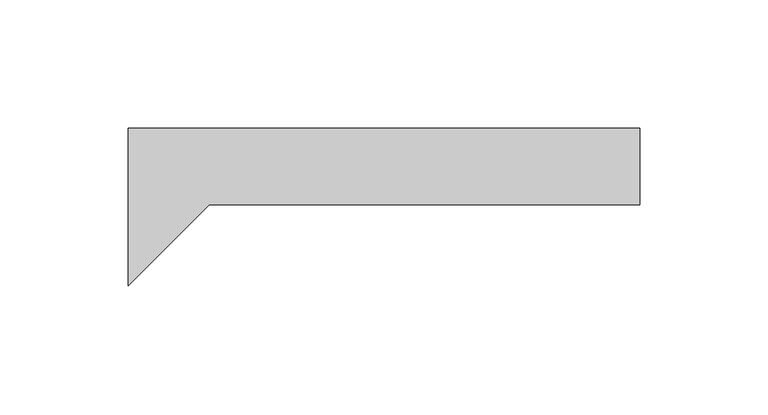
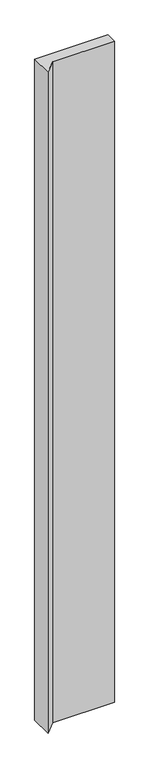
"""IFC4 building model written with IfcOpenShell, lengths in millimetres: plate geometry, ATELIERS 3S_EPURE CDB 300_VERTICAL : AZURO."""

import ifcopenshell
import ifcopenshell.guid

model = None  # the IFC model being written
_history = None  # IfcOwnerHistory: only IFC2X3 demands one
_inside = {}  # id of a spatial element -> (the spatial element, [elements in it])
_under = {}  # id of a project, library or spatial element -> (it, [spatial elements below it])
_declared = {}  # id of a project -> (the project, [libraries it declares])
_typed = {}  # id of a type object -> (the type object, [elements of that type])
_made_of = {}  # id of a material, layer set ... -> (it, [elements and type objects made of it])


def new_model(schema):
    """Start an empty IFC model of exactly this schema.

    Asked for "IFC4X3", IfcOpenShell would pick the latest addendum, in which some entities
    have other attributes; the version numbers below select the first issue.
    IFC2X3 requires an IfcOwnerHistory on every rooted entity: one is made here for all.
    """
    global model, _history
    if schema == "IFC4X3":
        model = ifcopenshell.file(schema_version=(4, 3, 0, 0))
    else:
        model = ifcopenshell.file(schema=schema)
    _inside.clear()
    _under.clear()
    _declared.clear()
    _typed.clear()
    _made_of.clear()
    _history = None
    if model.schema == "IFC2X3":
        org = make("IfcOrganization", Name="unknown")
        user = make(
            "IfcPersonAndOrganization",
            ThePerson=make("IfcPerson", FamilyName="unknown"),
            TheOrganization=org,
        )
        app = make(
            "IfcApplication",
            ApplicationDeveloper=org,
            Version="unknown",
            ApplicationFullName="unknown",
            ApplicationIdentifier="unknown",
        )
        _history = make(
            "IfcOwnerHistory",
            OwningUser=user,
            OwningApplication=app,
            ChangeAction="ADDED",
            CreationDate=0,
        )
    return model


def make(cls, **values):
    """One entity of the class cls with the attributes given. An attribute that is None is left unset."""
    return model.create_entity(
        cls, **{name: value for name, value in values.items() if value is not None}
    )


def rooted(cls, **values):
    """An entity with a GlobalId (a new one), such as an element, a storey or a relation."""
    return make(cls, GlobalId=ifcopenshell.guid.new(), OwnerHistory=_history, **values)


def si_unit(unit_type, name, prefix=None):
    """IfcSIUnit, for example si_unit("LENGTHUNIT", "METRE", prefix="MILLI")."""
    return make("IfcSIUnit", UnitType=unit_type, Prefix=prefix, Name=name)


def assignment(units):
    """IfcUnitAssignment: the units of a project."""
    return None if units is None else make("IfcUnitAssignment", Units=units)


def point(xyz):
    """IfcCartesianPoint."""
    return None if xyz is None else make("IfcCartesianPoint", Coordinates=xyz)


def direction(xyz):
    """IfcDirection."""
    return None if xyz is None else make("IfcDirection", DirectionRatios=xyz)


def frame(location, z_axis=None, x_axis=None):
    """IfcAxis2Placement3D, a coordinate frame: its origin and axes. An axis left out is left unset."""
    return make(
        "IfcAxis2Placement3D",
        Location=point(location),
        Axis=direction(z_axis),
        RefDirection=direction(x_axis),
    )


def origin():
    """The frame at (0, 0, 0) with its axes left unset."""
    return frame((0.0, 0.0, 0.0))


def origin_with_axes():
    """The frame at (0, 0, 0) with the z axis (0, 0, 1) and the x axis (1, 0, 0) written out."""
    return frame((0.0, 0.0, 0.0), z_axis=(0.0, 0.0, 1.0), x_axis=(1.0, 0.0, 0.0))


def place(relative_to, where):
    """IfcLocalPlacement: puts the frame where relative to a parent placement (None: the world)."""
    return make(
        "IfcLocalPlacement", PlacementRelTo=relative_to, RelativePlacement=where
    )


def context(
    kind, dimensions, precision=None, world=None, true_north=None, identifier=None
):
    """IfcGeometricRepresentationContext, for example the 3D "Model" context."""
    return make(
        "IfcGeometricRepresentationContext",
        ContextIdentifier=identifier,
        ContextType=kind,
        CoordinateSpaceDimension=dimensions,
        Precision=precision,
        WorldCoordinateSystem=world,
        TrueNorth=true_north,
    )


def project(units=None, contexts=None):
    """IfcProject with its units and contexts."""
    return rooted(
        "IfcProject",
        Name="project",
        RepresentationContexts=contexts,
        UnitsInContext=assignment(units),
    )


def spatial(cls, under=None, at=None, **own):
    """A site, building, storey or space (cls), placed at a placement, below another one or the project."""
    s = rooted(cls, ObjectPlacement=at, **own)
    if under is not None:
        _under.setdefault(under.id(), (under, []))[1].append(s)
    return s


def polyline(points):
    """IfcPolyline through the points."""
    return make("IfcPolyline", Points=[point(p) for p in points])


def outline(outer, holes=None, kind="AREA"):
    """IfcArbitraryClosedProfileDef: a profile drawn as a closed curve; with holes, ...WithVoids."""
    if holes is None:
        return make("IfcArbitraryClosedProfileDef", ProfileType=kind, OuterCurve=outer)
    return make(
        "IfcArbitraryProfileDefWithVoids",
        ProfileType=kind,
        OuterCurve=outer,
        InnerCurves=holes,
    )


def extrude(swept, where, along, depth):
    """IfcExtrudedAreaSolid: the profile swept, set in the frame where, extruded along a direction by depth."""
    return make(
        "IfcExtrudedAreaSolid",
        SweptArea=swept,
        Position=where,
        ExtrudedDirection=direction(along),
        Depth=depth,
    )


def shape(context_of_items, identifier, shape_type, items):
    """IfcShapeRepresentation: the items that make up one representation, for example the "Body"."""
    return make(
        "IfcShapeRepresentation",
        ContextOfItems=context_of_items,
        RepresentationIdentifier=identifier,
        RepresentationType=shape_type,
        Items=items,
    )


def source(mapping_origin, context_of_items, identifier, shape_type, items):
    """IfcRepresentationMap: a shape defined once, which mapped items show again and again."""
    return make(
        "IfcRepresentationMap",
        MappingOrigin=mapping_origin,
        MappedRepresentation=shape(context_of_items, identifier, shape_type, items),
    )


def transform(
    local_origin,
    x_axis=None,
    y_axis=None,
    z_axis=None,
    scale=None,
    scale2=None,
    scale3=None,
    uniform=True,
):
    """IfcCartesianTransformationOperator3D, or its non-uniform kind. x_axis, y_axis, z_axis: its Axis1, 2, 3."""
    if uniform:
        return make(
            "IfcCartesianTransformationOperator3D",
            Axis1=direction(x_axis),
            Axis2=direction(y_axis),
            LocalOrigin=point(local_origin),
            Scale=scale,
            Axis3=direction(z_axis),
        )
    return make(
        "IfcCartesianTransformationOperator3DnonUniform",
        Axis1=direction(x_axis),
        Axis2=direction(y_axis),
        LocalOrigin=point(local_origin),
        Scale=scale,
        Axis3=direction(z_axis),
        Scale2=scale2,
        Scale3=scale3,
    )


def mapped(mapping_source, mapping_target):
    """IfcMappedItem: shows the shape of a source again, moved by a transform."""
    return make(
        "IfcMappedItem", MappingSource=mapping_source, MappingTarget=mapping_target
    )


def made_of(thing, what):
    """Note that an element or type object is made of a material, layer set ...; save() writes the relation."""
    if what is not None:
        _made_of.setdefault(what.id(), (what, []))[1].append(thing)
    return thing


def element(
    cls,
    number,
    at=None,
    inside=None,
    cuts=None,
    type_object=None,
    material=None,
    context=None,
    identifier="Body",
    shape_type=None,
    held_by="IfcProductDefinitionShape",
    body=None,
    shapes=None,
    **own,
):
    """One element of the class cls, such as IfcWall. Its Tag is "e" and its number.

    at: its placement. inside: the storey or other place that contains it. cuts: it is an
    opening in that element (IfcRelVoidsElement). A single representation is given by context,
    identifier, shape_type and body (its items); several are given by shapes. held_by: the class
    of the entity that holds the representations. save() writes the other relations.
    """
    e = rooted(cls, Tag="e%d" % number, ObjectPlacement=at, **own)
    if body is not None:
        shapes = [shape(context, identifier, shape_type, body)]
    if shapes is not None:
        e.Representation = make(held_by, Representations=shapes)
    if inside is not None:
        _inside.setdefault(inside.id(), (inside, []))[1].append(e)
    if cuts is not None:
        rooted(
            "IfcRelVoidsElement", RelatingBuildingElement=cuts, RelatedOpeningElement=e
        )
    if type_object is not None:
        _typed.setdefault(type_object.id(), (type_object, []))[1].append(e)
    return made_of(e, material)


def aggregate(whole, parts):
    """IfcRelAggregates: a whole, such as a stair, and the parts it consists of."""
    return rooted("IfcRelAggregates", RelatingObject=whole, RelatedObjects=parts)


def save(model, path):
    """Write the relations noted so far, then the file.

    IfcRelAggregates (storeys below a building ...), IfcRelContainedInSpatialStructure (elements
    in a storey), IfcRelDefinesByType, IfcRelAssociatesMaterial and IfcRelDeclares: one each for
    every whole, place, type object, material and project.
    """
    for whole, parts in _under.values():
        aggregate(whole, parts)
    for where, things in _inside.values():
        rooted(
            "IfcRelContainedInSpatialStructure",
            RelatedElements=things,
            RelatingStructure=where,
        )
    for kind, things in _typed.values():
        rooted("IfcRelDefinesByType", RelatedObjects=things, RelatingType=kind)
    for what, things in _made_of.values():
        rooted("IfcRelAssociatesMaterial", RelatedObjects=things, RelatingMaterial=what)
    for by, libraries in _declared.values():
        rooted("IfcRelDeclares", RelatingContext=by, RelatedDefinitions=libraries)
    model.write(path)


def plate_085f16ba(model_context):
    return source(origin(), model_context, "Body", "SweptSolid", [
        extrude(outline(polyline([(-99.9999998, 0.0), (99.9999998, 0.0), (99.9999998, -29.9980469), (-68.2928847, -29.9980469), (-99.9999998, -61.705162), (-99.9999998, 0.0)])), origin_with_axes(), (0.0, 0.0, 1.0), 1900.0),
    ])


if __name__ == "__main__":
    model = new_model("IFC4")
    model_context = context("Model", 3, world=origin())
    ifc_project = project(units=[si_unit("LENGTHUNIT", "METRE", prefix="MILLI")], contexts=[model_context])
    site = spatial("IfcSite", under=ifc_project)
    building = spatial("IfcBuilding", under=site)
    placement = place(None, origin())
    plate_shape = plate_085f16ba(model_context)
    element("IfcPlate", 1, ObjectType="ATELIERS 3S_EPURE CDB 300_VERTICAL : AZURO", at=placement, inside=building, context=model_context, shape_type="MappedRepresentation", body=[
        mapped(plate_shape, transform((0.0, 0.0, 0.0), x_axis=(1.0, 0.0, 0.0), y_axis=(0.0, 1.0, 0.0), z_axis=(0.0, 0.0, 1.0))),
    ])
    save(model, "model.ifc")
